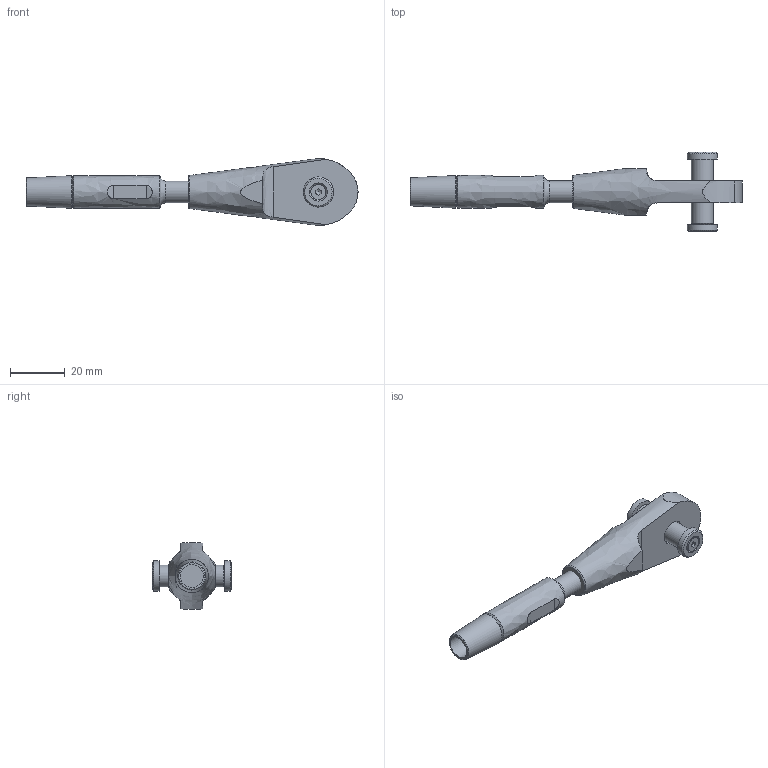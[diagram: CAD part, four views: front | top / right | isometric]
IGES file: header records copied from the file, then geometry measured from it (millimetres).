
Global section: file name: 520-008-OES-ADA-Kunde; native system: Autodesk Inventor 2020; preprocessor: unknown; author: Administrator; date: 20201007.152850; units: millimetre
Bounding box: 121.49 x 29.11 x 24.51 mm (x, y, z)
Volume: 18084.1 mm3; surface area: 8213.6 mm2
Topology: 6 solids, 6 shells, 62 faces, 151 edges, 105 vertices
Faces by surface type: bspline 62
